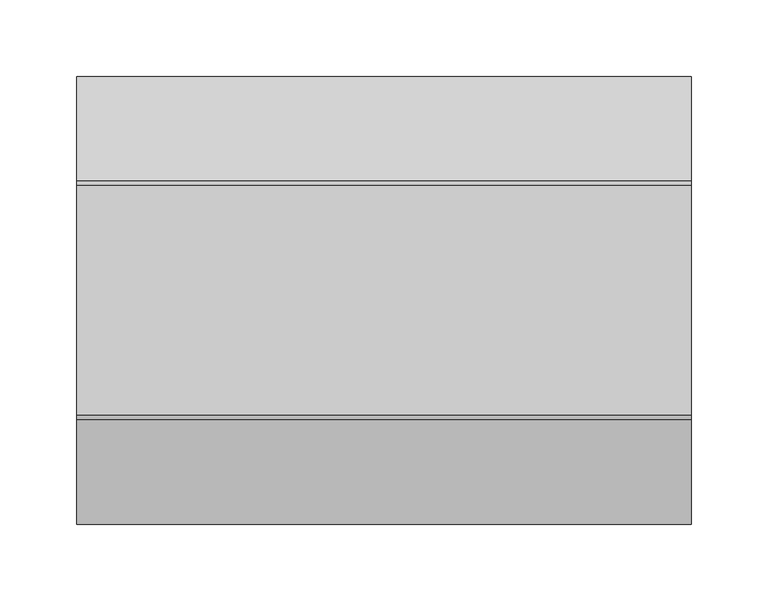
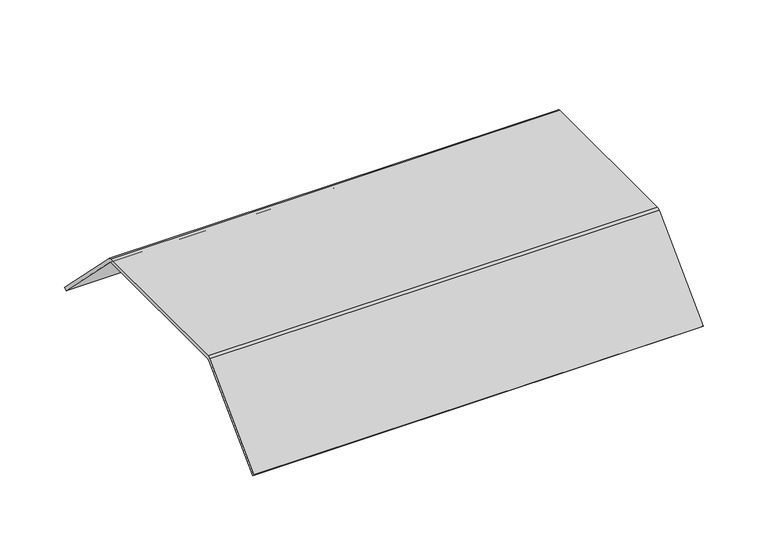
"""IFC4 building model written with IfcOpenShell, lengths in millimetres: proxy geometry, Electrical_Installation_Hager_Blank-Cover-400mm-Double-Sided-Height-70mm : Electrical_Installation_Hager_Blank-Cover-400mm-Double-Sided-Height-70mm."""

from ifc_helpers import new_model, si_unit, point, frame, frame_2d, origin, place, context, project, spatial, polyline, circle_curve, trimmed, segment, composite_curve, outline, extrude, source, transform, mapped, element, save


def electrical_fixtures_1099af83(model_context):
    return source(origin(), model_context, "Body", "SweptSolid", [
        extrude(outline(composite_curve([segment(trimmed(circle_curve(frame_2d((75.0, 36.5)), 4.0), [point((75.0, 40.5))], [point((77.8284271, 39.3284271))], False, "CARTESIAN"), True, "CONTINUOUS"), segment(polyline([(77.8284271, 39.3284271), (145.78408, -28.6272257), (143.6627596, -30.7485461), (75.996177, 36.9180366)]), True, "CONTINUOUS"), segment(trimmed(circle_curve(frame_2d((74.591193, 35.5130527)), 1.9869473), [point((75.996177, 36.9180366))], [point((74.591193, 37.5))], True, "CARTESIAN"), True, "CONTINUOUS"), segment(polyline([(74.591193, 37.5), (-74.8229541, 37.5)]), True, "CONTINUOUS"), segment(trimmed(circle_curve(frame_2d((-74.8229541, 36.0725733)), 1.4274267), [point((-74.8229541, 37.5))], [point((-75.8322972, 37.0819164))], True, "CARTESIAN"), True, "CONTINUOUS"), segment(polyline([(-75.8322972, 37.0819164), (-143.6627596, -30.7485461), (-145.78408, -28.6272257), (-77.8206472, 39.336207)]), True, "CONTINUOUS"), segment(trimmed(circle_curve(frame_2d((-75.0110025, 36.5265623)), 3.9734377), [point((-77.8206472, 39.336207))], [point((-75.0110025, 40.5))], False, "CARTESIAN"), True, "CONTINUOUS"), segment(polyline([(-75.0110025, 40.5), (75.0, 40.5)]), True, "CONTINUOUS")], self_intersect=False)), frame((0.0, 0.0, 0.0), z_axis=(1.0, 0.0, 0.0), x_axis=(0.0, 1.0, 0.0)), (0.0, 0.0, 1.0), 400.0),
    ])


if __name__ == "__main__":
    model = new_model("IFC4")
    model_context = context("Model", 3, world=origin())
    ifc_project = project(units=[si_unit("LENGTHUNIT", "METRE", prefix="MILLI")], contexts=[model_context])
    site = spatial("IfcSite", under=ifc_project)
    building = spatial("IfcBuilding", under=site)
    placement = place(None, origin())
    electrical_fixtures_shape = electrical_fixtures_1099af83(model_context)
    element("IfcBuildingElementProxy", 1, Name="Electrical_Installation_Hager_Blank-Cover-400mm-Double-Sided-Height-70mm : Electrical_Installation_Hager_Blank-Cover-400mm-Double-Sided-Height-70mm", ObjectType="Electrical_Installation_Hager_Blank-Cover-400mm-Double-Sided-Height-70mm : Electrical_Installation_Hager_Blank-Cover-400mm-Double-Sided-Height-70mm", at=placement, inside=building, context=model_context, shape_type="MappedRepresentation", body=[
        mapped(electrical_fixtures_shape, transform((0.0, 0.0, 0.0), x_axis=(1.0, 0.0, 0.0), y_axis=(0.0, 1.0, 0.0), z_axis=(0.0, 0.0, 1.0))),
    ])
    save(model, "model.ifc")
